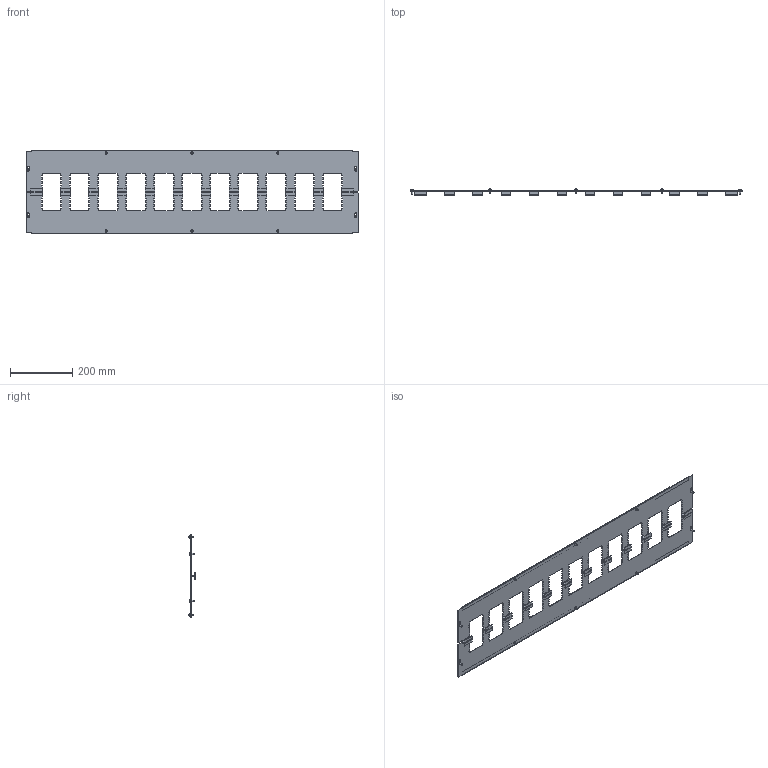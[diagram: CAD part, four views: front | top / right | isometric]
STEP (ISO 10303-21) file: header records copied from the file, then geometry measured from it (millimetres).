
FILE_DESCRIPTION(('Open CASCADE Model'),'2;1');
FILE_NAME('Open CASCADE Shape Model','2025-02-21T14:48:48',('Author'),( 'Open CASCADE'),'Open CASCADE STEP processor 7.8','Open CASCADE 7.8' ,'Unknown');
FILE_SCHEMA(('AUTOMOTIVE_DESIGN { 1 0 10303 214 1 1 1 1 }'));
Length unit declared in the file: millimetre
Products named in the file (4): Compound1; Solid1; Solid2; Solid3
Assembly tree (12 placements, depth 2):
  Compound1
    Solid1  x2
    Solid2  x6
    Solid3  x4
Bounding box: 1064 x 19.31 x 265 mm (x, y, z)
Volume: 363504.7 mm3; surface area: 497914.5 mm2
Topology: 12 solids, 12 shells, 1372 faces, 3932 edges, 2570 vertices
Faces by surface type: plane 1254, cylinder 40, cone 26, sphere 22, torus 20, bspline 10
Full cylindrical faces by diameter (mm): 4.8 x6, 5 x4, 6 x6, 7 x6, 9.5 x10
Entity records: 21346 total; most frequent: CARTESIAN_POINT 4508, ORIENTED_EDGE 3688, DIRECTION 3140, EDGE_CURVE 1844, LINE 1752, VECTOR 1752, VERTEX_POINT 1224, AXIS2_PLACEMENT_3D 694
